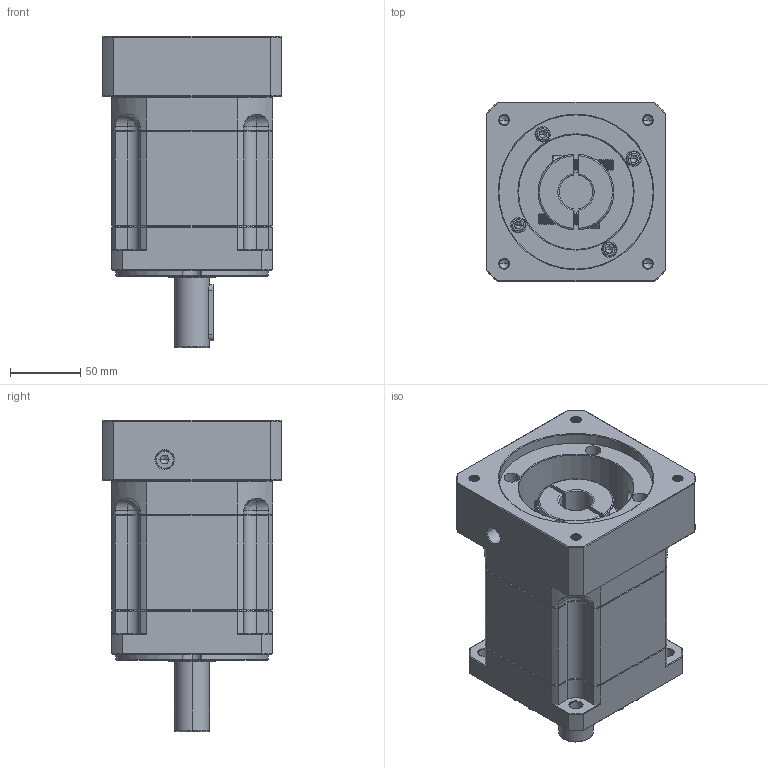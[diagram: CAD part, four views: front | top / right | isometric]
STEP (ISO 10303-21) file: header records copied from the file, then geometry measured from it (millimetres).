
FILE_DESCRIPTION (( 'STEP AP214' ), '1' );
FILE_NAME ('ZB115A-D25-L2-24-110-145-M8.step', '2023-03-02T08:57:43', ( '' ), ( 'Microsoft' ), 'SwSTEP 2.0', 'SolidWorks 2016', '' );
FILE_SCHEMA (( 'AUTOMOTIVE_DESIGN' ));
Length unit declared in the file: millimetre
Products named in the file (1): ZB115A-D25-L2-24-110-145-M8
Bounding box: 128 x 128 x 222 mm (x, y, z)
Volume: 1940756.8 mm3; surface area: 189767.3 mm2
Topology: 6 solids, 6 shells, 2112 faces, 5448 edges, 3430 vertices
Faces by surface type: plane 963, cylinder 439, cone 365, bspline 325, torus 20
Entity records: 112737 total; most frequent: CARTESIAN_POINT 40979, ORIENTED_EDGE 10828, DIRECTION 8880, EDGE_CURVE 5414, VERTEX_POINT 3430, VECTOR 3370, LINE 3370, AXIS2_PLACEMENT_3D 2755
